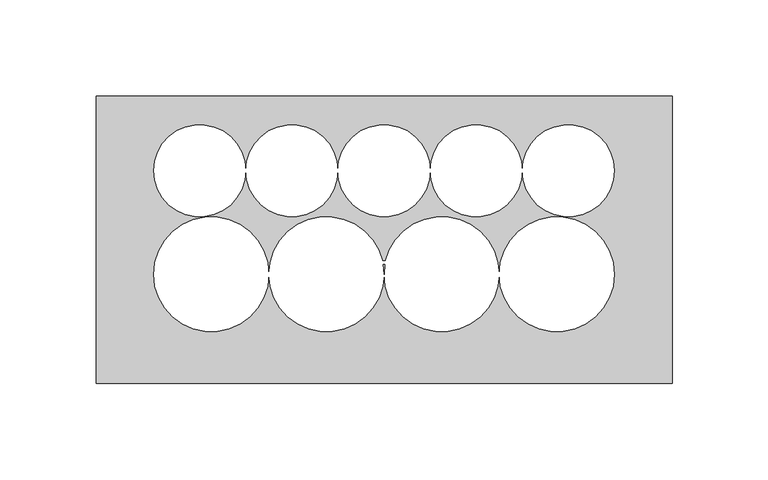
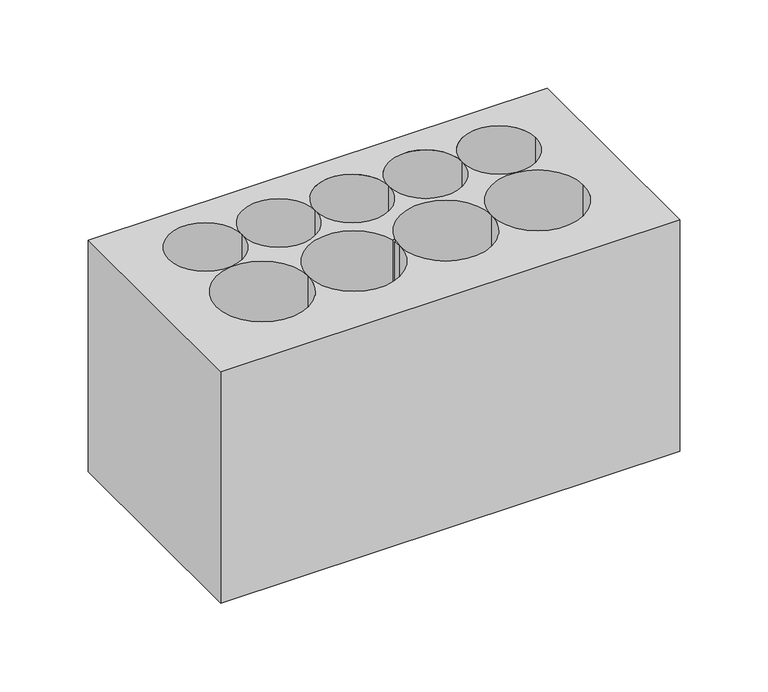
"""IFC4 building model written with IfcOpenShell, lengths in millimetres: proxy geometry, ▲GM_УЭР_кабельная_проходка : трубы_60_48_мм."""

from ifc_helpers import new_model, si_unit, frame, origin, place, context, project, spatial, polyline, circle_curve, source, transform, mapped, element, save
from ifc_brep_helpers import plane_surface, revolved_surface, advanced_brep


def generic_models_95319f70(model_context):
    return source(origin(), model_context, "Body", "AdvancedBrep", [
        advanced_brep(
        [(300.0, -150.0, 0.0), (300.0, 0.0, 0.0), (0.0, 0.0, 0.0), (0.0, -150.0, 0.0), (78.0, -39.0, 0.0), (30.0, -39.0, 0.0), (126.0, -39.0, 0.0), (174.0, -39.0, 0.0), (222.0, -39.0, 0.0), (270.0, -39.0, 0.0), (90.0, -93.0, 0.0), (30.0, -93.0, 0.0), (149.2508527, -86.3375966, 0.0), (150.7491473, -86.3375966, 0.0), (210.0, -93.0, 0.0), (270.0, -93.0, 0.0), (150.0, -93.0, 0.0), (149.5632499, -87.8995829, 0.0), (150.4367501, -87.8995829, 0.0), (300.0, -150.0, -160.0), (0.0, -150.0, -160.0), (0.0, 0.0, -160.0), (300.0, 0.0, -160.0), (30.0, -39.0, -160.0), (78.0, -39.0, -160.0), (126.0, -39.0, -160.0), (174.0, -39.0, -160.0), (222.0, -39.0, -160.0), (270.0, -39.0, -160.0), (30.0, -93.0, -160.0), (90.0, -93.0, -160.0), (150.0, -93.0, -160.0), (210.0, -93.0, -160.0), (270.0, -93.0, -160.0), (150.7491473, -86.3375966, -160.0), (149.2508527, -86.3375966, -160.0), (150.4367501, -87.8995829, -160.0), (149.5632499, -87.8995829, -160.0)],
        [
            (0, 1),
            (1, 2),
            (2, 3),
            (3, 0),
            (4, 5, circle_curve(frame((54.0, -39.0, 0.0), z_axis=(0.0, 0.0, -1.0), x_axis=(1.0, 0.0, 0.0)), 24.0)),
            (5, 4, circle_curve(frame((54.0, -39.0, 0.0), z_axis=(0.0, 0.0, -1.0), x_axis=(1.0, 0.0, 0.0)), 24.0)),
            (4, 6, circle_curve(frame((102.0, -39.0, 0.0), z_axis=(0.0, 0.0, -1.0), x_axis=(1.0, 0.0, 0.0)), 24.0)),
            (6, 7, circle_curve(frame((150.0, -39.0, 0.0), z_axis=(0.0, 0.0, -1.0), x_axis=(1.0, 0.0, 0.0)), 24.0)),
            (7, 8, circle_curve(frame((198.0, -39.0, 0.0), z_axis=(0.0, 0.0, -1.0), x_axis=(1.0, 0.0, 0.0)), 24.0)),
            (8, 9, circle_curve(frame((246.0, -39.0, 0.0), z_axis=(0.0, 0.0, -1.0), x_axis=(1.0, 0.0, 0.0)), 24.0)),
            (9, 8, circle_curve(frame((246.0, -39.0, 0.0), z_axis=(0.0, 0.0, -1.0), x_axis=(1.0, 0.0, 0.0)), 24.0)),
            (8, 7, circle_curve(frame((198.0, -39.0, 0.0), z_axis=(0.0, 0.0, -1.0), x_axis=(1.0, 0.0, 0.0)), 24.0)),
            (7, 6, circle_curve(frame((150.0, -39.0, 0.0), z_axis=(0.0, 0.0, -1.0), x_axis=(1.0, 0.0, 0.0)), 24.0)),
            (6, 4, circle_curve(frame((102.0, -39.0, 0.0), z_axis=(0.0, 0.0, -1.0), x_axis=(1.0, 0.0, 0.0)), 24.0)),
            (10, 11, circle_curve(frame((60.0, -93.0, 0.0), z_axis=(0.0, 0.0, -1.0), x_axis=(1.0, 0.0, 0.0)), 30.0)),
            (11, 10, circle_curve(frame((60.0, -93.0, 0.0), z_axis=(0.0, 0.0, -1.0), x_axis=(1.0, 0.0, 0.0)), 30.0)),
            (10, 12, circle_curve(frame((120.0, -93.0, 0.0), z_axis=(0.0, 0.0, -1.0), x_axis=(1.0, 0.0, 0.0)), 30.0)),
            (12, 13, circle_curve(frame((150.0, -87.0, 0.0), z_axis=(0.0, 0.0, -1.0), x_axis=(1.0, 0.0, 0.0)), 1.0)),
            (13, 14, circle_curve(frame((180.0, -93.0, 0.0), z_axis=(0.0, 0.0, -1.0), x_axis=(1.0, 0.0, 0.0)), 30.0)),
            (14, 15, circle_curve(frame((240.0, -93.0, 0.0), z_axis=(0.0, 0.0, -1.0), x_axis=(1.0, 0.0, 0.0)), 30.0)),
            (15, 14, circle_curve(frame((240.0, -93.0, 0.0), z_axis=(0.0, 0.0, -1.0), x_axis=(1.0, 0.0, 0.0)), 30.0)),
            (14, 16, circle_curve(frame((180.0, -93.0, 0.0), z_axis=(0.0, 0.0, -1.0), x_axis=(1.0, 0.0, 0.0)), 30.0)),
            (16, 10, circle_curve(frame((120.0, -93.0, 0.0), z_axis=(0.0, 0.0, -1.0), x_axis=(1.0, 0.0, 0.0)), 30.0)),
            (17, 16, circle_curve(frame((120.0, -93.0, 0.0), z_axis=(0.0, 0.0, -1.0), x_axis=(1.0, 0.0, 0.0)), 30.0)),
            (16, 18, circle_curve(frame((180.0, -93.0, 0.0), z_axis=(0.0, 0.0, -1.0), x_axis=(1.0, 0.0, 0.0)), 30.0)),
            (18, 17, circle_curve(frame((150.0, -87.0, 0.0), z_axis=(0.0, 0.0, -1.0), x_axis=(1.0, 0.0, 0.0)), 1.0)),
            (19, 20),
            (20, 21),
            (21, 22),
            (22, 19),
            (23, 24, circle_curve(frame((54.0, -39.0, -160.0), z_axis=(0.0, 0.0, 1.0), x_axis=(1.0, 0.0, 0.0)), 24.0)),
            (24, 25, circle_curve(frame((102.0, -39.0, -160.0), z_axis=(0.0, 0.0, 1.0), x_axis=(1.0, 0.0, 0.0)), 24.0)),
            (25, 26, circle_curve(frame((150.0, -39.0, -160.0), z_axis=(0.0, 0.0, 1.0), x_axis=(1.0, 0.0, 0.0)), 24.0)),
            (26, 27, circle_curve(frame((198.0, -39.0, -160.0), z_axis=(0.0, 0.0, 1.0), x_axis=(1.0, 0.0, 0.0)), 24.0)),
            (27, 28, circle_curve(frame((246.0, -39.0, -160.0), z_axis=(0.0, 0.0, 1.0), x_axis=(1.0, 0.0, 0.0)), 24.0)),
            (28, 27, circle_curve(frame((246.0, -39.0, -160.0), z_axis=(0.0, 0.0, 1.0), x_axis=(1.0, 0.0, 0.0)), 24.0)),
            (27, 26, circle_curve(frame((198.0, -39.0, -160.0), z_axis=(0.0, 0.0, 1.0), x_axis=(1.0, 0.0, 0.0)), 24.0)),
            (26, 25, circle_curve(frame((150.0, -39.0, -160.0), z_axis=(0.0, 0.0, 1.0), x_axis=(1.0, 0.0, 0.0)), 24.0)),
            (25, 24, circle_curve(frame((102.0, -39.0, -160.0), z_axis=(0.0, 0.0, 1.0), x_axis=(1.0, 0.0, 0.0)), 24.0)),
            (24, 23, circle_curve(frame((54.0, -39.0, -160.0), z_axis=(0.0, 0.0, 1.0), x_axis=(1.0, 0.0, 0.0)), 24.0)),
            (29, 30, circle_curve(frame((60.0, -93.0, -160.0), z_axis=(0.0, 0.0, 1.0), x_axis=(1.0, 0.0, 0.0)), 30.0)),
            (30, 31, circle_curve(frame((120.0, -93.0, -160.0), z_axis=(0.0, 0.0, 1.0), x_axis=(1.0, 0.0, 0.0)), 30.0)),
            (31, 32, circle_curve(frame((180.0, -93.0, -160.0), z_axis=(0.0, 0.0, 1.0), x_axis=(1.0, 0.0, 0.0)), 30.0)),
            (32, 33, circle_curve(frame((240.0, -93.0, -160.0), z_axis=(0.0, 0.0, 1.0), x_axis=(1.0, 0.0, 0.0)), 30.0)),
            (33, 32, circle_curve(frame((240.0, -93.0, -160.0), z_axis=(0.0, 0.0, 1.0), x_axis=(1.0, 0.0, 0.0)), 30.0)),
            (32, 34, circle_curve(frame((180.0, -93.0, -160.0), z_axis=(0.0, 0.0, 1.0), x_axis=(1.0, 0.0, 0.0)), 30.0)),
            (34, 35, circle_curve(frame((150.0, -87.0, -160.0), z_axis=(0.0, 0.0, 1.0), x_axis=(1.0, 0.0, 0.0)), 1.0)),
            (35, 30, circle_curve(frame((120.0, -93.0, -160.0), z_axis=(0.0, 0.0, 1.0), x_axis=(1.0, 0.0, 0.0)), 30.0)),
            (30, 29, circle_curve(frame((60.0, -93.0, -160.0), z_axis=(0.0, 0.0, 1.0), x_axis=(1.0, 0.0, 0.0)), 30.0)),
            (36, 31, circle_curve(frame((180.0, -93.0, -160.0), z_axis=(0.0, 0.0, 1.0), x_axis=(1.0, 0.0, 0.0)), 30.0)),
            (31, 37, circle_curve(frame((120.0, -93.0, -160.0), z_axis=(0.0, 0.0, 1.0), x_axis=(1.0, 0.0, 0.0)), 30.0)),
            (37, 36, circle_curve(frame((150.0, -87.0, -160.0), z_axis=(0.0, 0.0, 1.0), x_axis=(1.0, 0.0, 0.0)), 1.0)),
            (0, 19),
            (22, 1),
            (21, 2),
            (20, 3),
            (4, 24),
            (23, 5),
            (7, 26),
            (25, 6),
            (9, 28),
            (27, 8),
            (6, 25),
            (24, 4),
            (8, 27),
            (26, 7),
            (10, 30),
            (29, 11),
            (16, 31),
            (30, 10),
            (17, 37),
            (35, 12),
            (14, 32),
            (31, 16),
            (13, 34),
            (36, 18),
            (15, 33),
            (32, 14),
        ],
        [
            plane_surface(frame((300.0, -156.7325392, 0.0), z_axis=(0.0, 0.0, 1.0), x_axis=(0.0, 1.0, 0.0))),
            plane_surface(frame((300.0, -156.7325392, -160.0), z_axis=(0.0, 0.0, -1.0), x_axis=(0.0, -1.0, 0.0))),
            plane_surface(frame((300.0, -150.0, 0.0), z_axis=(1.0, 0.0, 0.0), x_axis=(0.0, 0.0, -1.0))),
            plane_surface(frame((300.0, 0.0, 0.0), z_axis=(0.0, 1.0, 0.0), x_axis=(0.0, 0.0, -1.0))),
            plane_surface(frame((0.0, 0.0, 0.0), z_axis=(-1.0, 0.0, 0.0), x_axis=(0.0, 0.0, -1.0))),
            plane_surface(frame((0.0, -150.0, 0.0), z_axis=(0.0, -1.0, 0.0), x_axis=(0.0, 0.0, -1.0))),
            revolved_surface(polyline([(78.0, -39.0, 0.0), (78.0, -39.0, -160.0)]), (54.0, -39.0, -160.0), (0.0, 0.0, 1.0)),
            revolved_surface(polyline([(174.0, -39.0, 0.0), (174.0, -39.0, -160.0)]), (150.0, -39.0, -160.0), (0.0, 0.0, 1.0)),
            revolved_surface(polyline([(270.0, -39.0, 0.0), (270.0, -39.0, -160.0)]), (246.0, -39.0, -160.0), (0.0, 0.0, 1.0)),
            revolved_surface(polyline([(126.0, -39.0, 0.0), (126.0, -39.0, -160.0)]), (102.0, -39.0, -160.0), (0.0, 0.0, 1.0)),
            revolved_surface(polyline([(222.0, -39.0, 0.0), (222.0, -39.0, -160.0)]), (198.0, -39.0, -160.0), (0.0, 0.0, 1.0)),
            revolved_surface(polyline([(90.0, -93.0, 0.0), (90.0, -93.0, -160.0)]), (60.0, -93.0, -160.0), (0.0, 0.0, 1.0)),
            revolved_surface(polyline([(150.0, -93.0, 0.0), (150.0, -93.0, -160.0)]), (120.0, -93.0, -160.0), (0.0, 0.0, 1.0)),
            revolved_surface(polyline([(210.0, -93.0, 0.0), (210.0, -93.0, -160.0)]), (180.0, -93.0, -160.0), (0.0, 0.0, 1.0)),
            revolved_surface(polyline([(270.0, -93.0, 0.0), (270.0, -93.0, -160.0)]), (240.0, -93.0, -160.0), (0.0, 0.0, 1.0)),
            revolved_surface(polyline([(151.0, -87.0, 0.0), (151.0, -87.0, -160.0)]), (150.0, -87.0, -160.0), (0.0, 0.0, 1.0)),
        ],
        [
            (0, [[1, 2, 3, 4], [5, 6, 7, 8, 9, 10, 11, 12, 13, 14], [15, 16, 17, 18, 19, 20, 21, 22, 23]]),
            (0, [[24, 25, 26]]),
            (1, [[27, 28, 29, 30], [31, 32, 33, 34, 35, 36, 37, 38, 39, 40], [41, 42, 43, 44, 45, 46, 47, 48, 49]]),
            (1, [[50, 51, 52]]),
            (2, [[-1, 53, -30, 54]]),
            (3, [[-2, -54, -29, 55]]),
            (4, [[-3, -55, -28, 56]]),
            (5, [[-4, -56, -27, -53]]),
            (6, [[57, -31, 58, -5]]),
            (6, [[-57, -6, -58, -40]]),
            (7, [[59, -33, 60, -13]]),
            (7, [[-59, -8, -60, -38]]),
            (8, [[61, -35, 62, -11]]),
            (8, [[-61, -10, -62, -36]]),
            (9, [[63, -32, 64, -14]]),
            (9, [[-63, -7, -64, -39]]),
            (10, [[65, -34, 66, -12]]),
            (10, [[-65, -9, -66, -37]]),
            (11, [[67, -41, 68, -15]]),
            (11, [[-67, -16, -68, -49]]),
            (12, [[69, -42, 70, -23]]),
            (12, [[-69, -24, 71, -51]]),
            (12, [[-70, -48, 72, -17]]),
            (13, [[73, -43, 74, -22]]),
            (13, [[-73, -19, 75, -46]]),
            (13, [[-74, -50, 76, -25]]),
            (14, [[77, -44, 78, -21]]),
            (14, [[-77, -20, -78, -45]]),
            (15, [[-26, -76, -52, -71]]),
            (15, [[-18, -72, -47, -75]]),
        ],
    ),
    ])


if __name__ == "__main__":
    model = new_model("IFC4")
    model_context = context("Model", 3, world=origin())
    ifc_project = project(units=[si_unit("LENGTHUNIT", "METRE", prefix="MILLI")], contexts=[model_context])
    site = spatial("IfcSite", under=ifc_project)
    building = spatial("IfcBuilding", under=site)
    placement = place(None, origin())
    generic_models_shape = generic_models_95319f70(model_context)
    element("IfcBuildingElementProxy", 1, Name="▲GM_УЭР_кабельная_проходка : трубы_60_48_мм", ObjectType="▲GM_УЭР_кабельная_проходка : трубы_60_48_мм", at=placement, inside=building, context=model_context, shape_type="MappedRepresentation", body=[
        mapped(generic_models_shape, transform((0.0, 0.0, 0.0), x_axis=(1.0, 0.0, 0.0), y_axis=(0.0, 1.0, 0.0), z_axis=(0.0, 0.0, 1.0))),
    ])
    save(model, "model.ifc")
